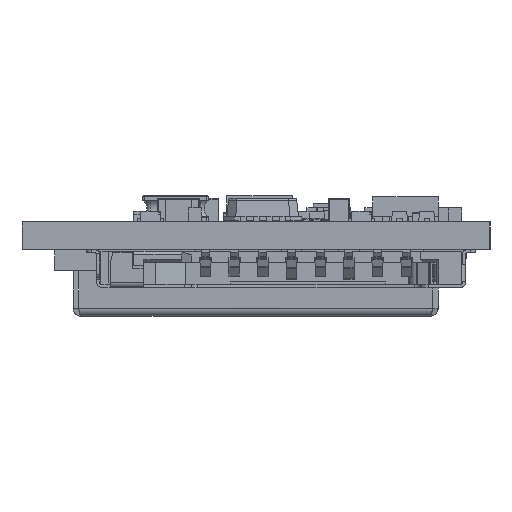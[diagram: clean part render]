
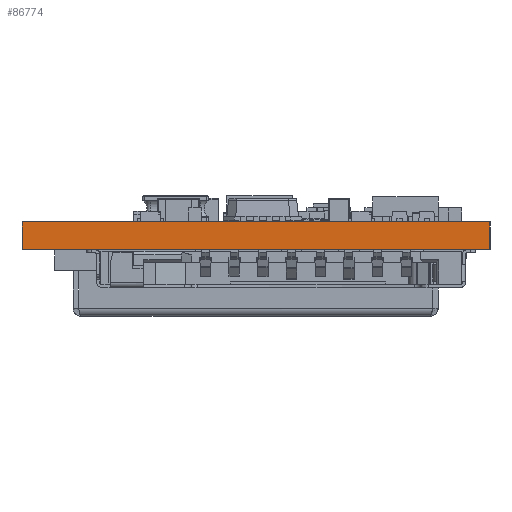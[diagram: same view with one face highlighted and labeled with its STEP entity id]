
A CAD part, left-side view. The second image highlights one B-rep face of the part: STEP entity #86774.
In plain terms, the highlighted planar face has unit normal (-1, -0.001, 0).
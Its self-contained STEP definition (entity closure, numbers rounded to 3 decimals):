
#4834=FACE_OUTER_BOUND('',#10212,.T.);
#10212=EDGE_LOOP('',(#58100,#58101,#58102,#58103));
#16116=LINE('',#125529,#26678);
#16117=LINE('',#125531,#26679);
#16118=LINE('',#125533,#26680);
#16119=LINE('',#125534,#26681);
#26678=VECTOR('',#100383,10.);
#26679=VECTOR('',#100384,10.);
#26680=VECTOR('',#100385,10.);
#26681=VECTOR('',#100386,10.);
#37096=VERTEX_POINT('',#125527);
#37097=VERTEX_POINT('',#125528);
#37098=VERTEX_POINT('',#125530);
#37099=VERTEX_POINT('',#125532);
#45271=EDGE_CURVE('',#37096,#37097,#16116,.T.);
#45272=EDGE_CURVE('',#37096,#37098,#16117,.T.);
#45273=EDGE_CURVE('',#37099,#37098,#16118,.T.);
#45274=EDGE_CURVE('',#37097,#37099,#16119,.T.);
#58100=ORIENTED_EDGE('',*,*,#45271,.F.);
#58101=ORIENTED_EDGE('',*,*,#45272,.T.);
#58102=ORIENTED_EDGE('',*,*,#45273,.F.);
#58103=ORIENTED_EDGE('',*,*,#45274,.F.);
#82642=PLANE('',#92530);
#86774=ADVANCED_FACE('',(#4834),#82642,.T.);
#92530=AXIS2_PLACEMENT_3D('',#125526,#100381,#100382);
#100381=DIRECTION('center_axis',(-1.,-0.001,
0.));
#100382=DIRECTION('ref_axis',(-0.001,1.,0.));
#100383=DIRECTION('',(0.001,-1.,0.));
#100384=DIRECTION('',(0.,0.,-1.));
#100385=DIRECTION('',(-0.001,1.,0.));
#100386=DIRECTION('',(0.,0.,-1.));
#125526=CARTESIAN_POINT('Origin',(0.,-0.05,
1.07));
#125527=CARTESIAN_POINT('',(-0.01,17.9,1.07));
#125528=CARTESIAN_POINT('',(0.,-0.05,1.07));
#125529=CARTESIAN_POINT('',(-0.01,17.9,1.07));
#125530=CARTESIAN_POINT('',(-0.01,17.9,0.));
#125531=CARTESIAN_POINT('',(-0.01,17.9,1.07));
#125532=CARTESIAN_POINT('',(0.,-0.05,0.));
#125533=CARTESIAN_POINT('',(-0.01,17.9,0.));
#125534=CARTESIAN_POINT('',(0.,-0.05,1.07));
